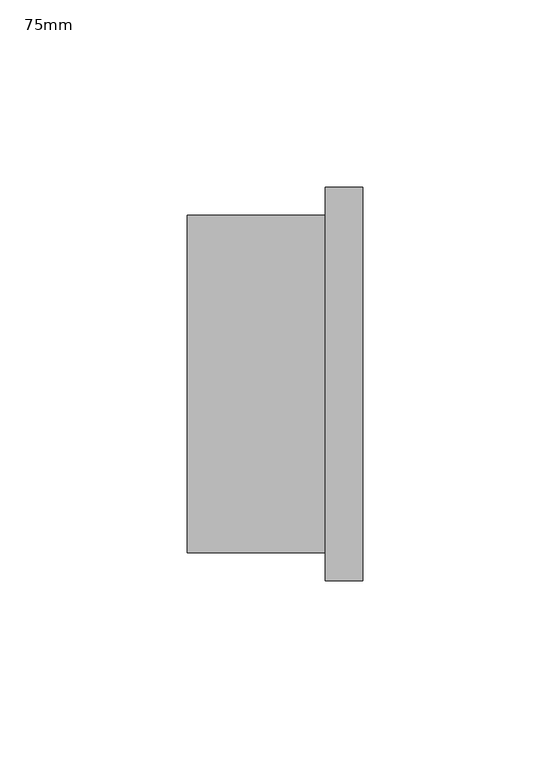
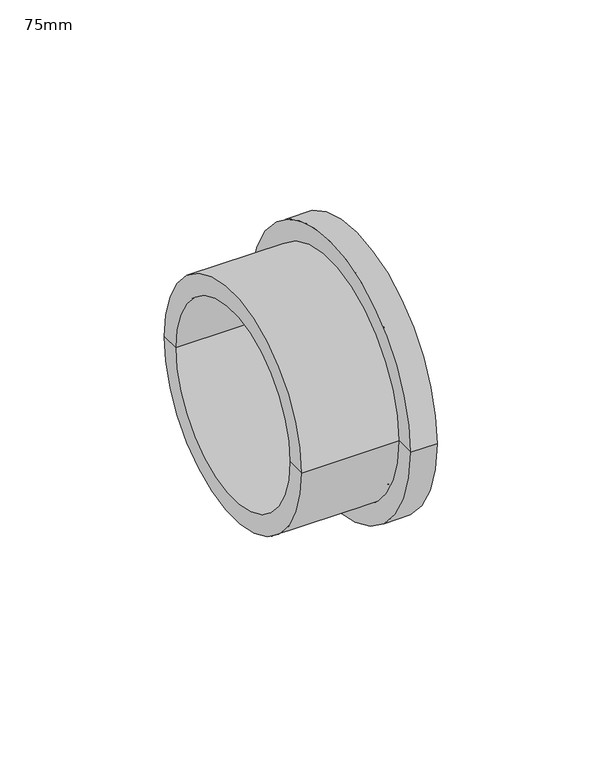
"""IFC4 building model written with IfcOpenShell, lengths in millimetres: pipe fitting geometry, Durapipe_PipeFitting_PVC_StubFlange : 75mm."""

from ifc_helpers import new_model, si_unit, frame, origin, place, context, project, spatial, polyline, circle_curve, source, transform, mapped, element, save
from ifc_brep_helpers import plane_surface, cylinder_surface, revolved_surface, advanced_brep


def pipe_fitting_75mm_f55d075b(model_context):
    return source(origin(), model_context, "Body", "AdvancedBrep", [
        advanced_brep(
        [(23.4, -52.5, 0.0), (23.4, 52.5, 0.0), (23.4, 43.7, 0.0), (23.4, -43.7, 0.0), (23.4, 31.5, 0.0), (23.4, -31.5, 0.0), (23.4, -39.9720779, 0.0), (23.4, 39.9720779, 0.0), (13.4, -52.5, 0.0), (13.4, 52.5, 0.0), (13.4, -45.0, 0.0), (13.4, 45.0, 0.0), (-23.4, -45.0, 0.0), (-23.4, 45.0, 0.0), (-23.4, -37.5, 0.0), (-23.4, 37.5, 0.0), (20.6, 31.5, 0.0), (20.6, -31.5, 0.0), (20.6, -37.5, 0.0), (20.6, 37.5, 0.0), (23.4, 41.2147186, 0.0), (21.9, 40.5933983, 0.0), (21.9, -40.5933983, 0.0), (23.4, -41.2147186, 0.0), (21.9, -41.836039, 0.0), (21.9, 41.836039, 0.0), (23.4, -42.4573593, 0.0), (23.4, 42.4573593, 0.0), (21.9, -43.0786797, 0.0), (21.9, 43.0786797, 0.0)],
        [
            (0, 1, circle_curve(frame((23.4, 0.0, 0.0), z_axis=(1.0, 0.0, 0.0), x_axis=(0.0, 1.0, 0.0)), 52.5)),
            (1, 2),
            (2, 3, circle_curve(frame((23.4, 0.0, 0.0), z_axis=(-1.0, 0.0, 0.0), x_axis=(0.0, -1.0, 0.0)), 43.7)),
            (3, 0),
            (4, 5, circle_curve(frame((23.4, 0.0, 0.0), z_axis=(-1.0, 0.0, 0.0), x_axis=(0.0, 1.0, 0.0)), 31.5)),
            (5, 6),
            (6, 7, circle_curve(frame((23.4, 0.0, 0.0), z_axis=(1.0, 0.0, 0.0), x_axis=(0.0, -1.0, 0.0)), 39.9720779)),
            (7, 4),
            (1, 0, circle_curve(frame((23.4, 0.0, 0.0), z_axis=(1.0, 0.0, 0.0), x_axis=(0.0, 1.0, 0.0)), 52.5)),
            (3, 2, circle_curve(frame((23.4, 0.0, 0.0), z_axis=(-1.0, 0.0, 0.0), x_axis=(0.0, 1.0, 0.0)), 43.7)),
            (5, 4, circle_curve(frame((23.4, 0.0, 0.0), z_axis=(-1.0, 0.0, 0.0), x_axis=(0.0, 1.0, 0.0)), 31.5)),
            (7, 6, circle_curve(frame((23.4, 0.0, 0.0), z_axis=(1.0, 0.0, 0.0), x_axis=(0.0, 1.0, 0.0)), 39.9720779)),
            (0, 8),
            (8, 9, circle_curve(frame((13.4, 0.0, 0.0), z_axis=(1.0, 0.0, 0.0), x_axis=(0.0, 1.0, 0.0)), 52.5)),
            (9, 1),
            (9, 8, circle_curve(frame((13.4, 0.0, 0.0), z_axis=(1.0, 0.0, 0.0), x_axis=(0.0, 1.0, 0.0)), 52.5)),
            (8, 10),
            (10, 11, circle_curve(frame((13.4, 0.0, 0.0), z_axis=(1.0, 0.0, 0.0), x_axis=(0.0, 1.0, 0.0)), 45.0)),
            (11, 9),
            (11, 10, circle_curve(frame((13.4, 0.0, 0.0), z_axis=(1.0, 0.0, 0.0), x_axis=(0.0, 1.0, 0.0)), 45.0)),
            (10, 12),
            (12, 13, circle_curve(frame((-23.4, 0.0, 0.0), z_axis=(1.0, 0.0, 0.0), x_axis=(0.0, 1.0, 0.0)), 45.0)),
            (13, 11),
            (13, 12, circle_curve(frame((-23.4, 0.0, 0.0), z_axis=(1.0, 0.0, 0.0), x_axis=(0.0, 1.0, 0.0)), 45.0)),
            (12, 14),
            (14, 15, circle_curve(frame((-23.4, 0.0, 0.0), z_axis=(1.0, 0.0, 0.0), x_axis=(0.0, 1.0, 0.0)), 37.5)),
            (15, 13),
            (15, 14, circle_curve(frame((-23.4, 0.0, 0.0), z_axis=(1.0, 0.0, 0.0), x_axis=(0.0, 1.0, 0.0)), 37.5)),
            (4, 16),
            (16, 17, circle_curve(frame((20.6, 0.0, 0.0), z_axis=(-1.0, 0.0, 0.0), x_axis=(0.0, 1.0, 0.0)), 31.5)),
            (17, 5),
            (17, 16, circle_curve(frame((20.6, 0.0, 0.0), z_axis=(-1.0, 0.0, 0.0), x_axis=(0.0, 1.0, 0.0)), 31.5)),
            (14, 18),
            (18, 19, circle_curve(frame((20.6, 0.0, 0.0), z_axis=(1.0, 0.0, 0.0), x_axis=(0.0, 1.0, 0.0)), 37.5)),
            (19, 15),
            (19, 18, circle_curve(frame((20.6, 0.0, 0.0), z_axis=(1.0, 0.0, 0.0), x_axis=(0.0, 1.0, 0.0)), 37.5)),
            (18, 17),
            (16, 19),
            (20, 21),
            (21, 22, circle_curve(frame((21.9, 0.0, 0.0), z_axis=(-1.0, 0.0, 0.0), x_axis=(0.0, -1.0, 0.0)), 40.5933983)),
            (22, 23),
            (23, 20, circle_curve(frame((23.4, 0.0, 0.0), z_axis=(1.0, 0.0, 0.0), x_axis=(0.0, -1.0, 0.0)), 41.2147186)),
            (23, 24),
            (24, 25, circle_curve(frame((21.9, 0.0, 0.0), z_axis=(1.0, 0.0, 0.0), x_axis=(0.0, -1.0, 0.0)), 41.836039)),
            (25, 20),
            (24, 26),
            (26, 27, circle_curve(frame((23.4, 0.0, 0.0), z_axis=(1.0, 0.0, 0.0), x_axis=(0.0, -1.0, 0.0)), 42.4573593)),
            (27, 25),
            (26, 28),
            (28, 29, circle_curve(frame((21.9, 0.0, 0.0), z_axis=(1.0, 0.0, 0.0), x_axis=(0.0, -1.0, 0.0)), 43.0786797)),
            (29, 27),
            (28, 3),
            (2, 29),
            (21, 7),
            (6, 22),
            (20, 23, circle_curve(frame((23.4, 0.0, 0.0), z_axis=(1.0, 0.0, 0.0), x_axis=(0.0, 1.0, 0.0)), 41.2147186)),
            (22, 21, circle_curve(frame((21.9, 0.0, 0.0), z_axis=(-1.0, 0.0, 0.0), x_axis=(0.0, 1.0, 0.0)), 40.5933983)),
            (25, 24, circle_curve(frame((21.9, 0.0, 0.0), z_axis=(1.0, 0.0, 0.0), x_axis=(0.0, 1.0, 0.0)), 41.836039)),
            (27, 26, circle_curve(frame((23.4, 0.0, 0.0), z_axis=(1.0, 0.0, 0.0), x_axis=(0.0, 1.0, 0.0)), 42.4573593)),
            (29, 28, circle_curve(frame((21.9, 0.0, 0.0), z_axis=(1.0, 0.0, 0.0), x_axis=(0.0, 1.0, 0.0)), 43.0786797)),
        ],
        [
            plane_surface(frame((23.4, 0.0, 0.0), z_axis=(1.0, 0.0, 0.0), x_axis=(0.0, 1.0, 0.0))),
            cylinder_surface(frame((26.5035546, 0.0, 0.0), z_axis=(-1.0, 0.0, 0.0), x_axis=(0.0, 1.0, 0.0)), 52.5),
            plane_surface(frame((13.4, 0.0, 0.0), z_axis=(-1.0, 0.0, 0.0), x_axis=(0.0, 1.0, 0.0))),
            cylinder_surface(frame((26.5035546, 0.0, 0.0), z_axis=(-1.0, 0.0, 0.0), x_axis=(0.0, 1.0, 0.0)), 45.0),
            plane_surface(frame((-23.4, 0.0, 0.0), z_axis=(-1.0, 0.0, 0.0), x_axis=(0.0, 1.0, 0.0))),
            revolved_surface(polyline([(20.6, 31.5, 0.0), (23.4, 31.5, 0.0)]), (26.5035546, 0.0, 0.0), (-1.0, 0.0, 0.0)),
            revolved_surface(polyline([(-23.4, 37.5, 0.0), (20.599999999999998, 37.5, 0.0)]), (-25.2250714, 0.0, 0.0), (-1.0, 0.0, 0.0)),
            plane_surface(frame((20.6, 0.0, 0.0), z_axis=(-1.0, 0.0, 0.0), x_axis=(0.0, 1.0, 0.0))),
            revolved_surface(polyline([(23.4, -41.2147186, 0.0), (21.9, -40.5933983, 0.0)]), (23.4, 0.0, 0.0), (1.0, 0.0, 0.0)),
            revolved_surface(polyline([(21.9, -41.836039, 0.0), (23.4, -41.2147186, 0.0)]), (23.4, 0.0, 0.0), (1.0, 0.0, 0.0)),
            revolved_surface(polyline([(23.4, -42.4573593, 0.0), (21.9, -41.836039, 0.0)]), (23.4, 0.0, 0.0), (1.0, 0.0, 0.0)),
            revolved_surface(polyline([(21.9, -43.0786797, 0.0), (23.4, -42.4573593, 0.0)]), (23.4, 0.0, 0.0), (1.0, 0.0, 0.0)),
            revolved_surface(polyline([(23.4, -43.7, 0.0), (21.9, -43.0786797, 0.0)]), (23.4, 0.0, 0.0), (1.0, 0.0, 0.0)),
            revolved_surface(polyline([(21.9, -40.5933983, 0.0), (23.4, -39.9720779, 0.0)]), (23.4, 0.0, 0.0), (1.0, 0.0, 0.0)),
            revolved_surface(polyline([(23.4, 41.2147186, 0.0), (21.9, 40.5933983, 0.0)]), (23.4, 0.0, 0.0), (1.0, 0.0, 0.0)),
            revolved_surface(polyline([(21.9, 41.836039, 0.0), (23.4, 41.2147186, 0.0)]), (23.4, 0.0, 0.0), (1.0, 0.0, 0.0)),
            revolved_surface(polyline([(23.4, 42.4573593, 0.0), (21.9, 41.836039, 0.0)]), (23.4, 0.0, 0.0), (1.0, 0.0, 0.0)),
            revolved_surface(polyline([(21.9, 43.0786797, 0.0), (23.4, 42.4573593, 0.0)]), (23.4, 0.0, 0.0), (1.0, 0.0, 0.0)),
            revolved_surface(polyline([(23.4, 43.7, 0.0), (21.9, 43.0786797, 0.0)]), (23.4, 0.0, 0.0), (1.0, 0.0, 0.0)),
            revolved_surface(polyline([(21.9, 40.5933983, 0.0), (23.4, 39.9720779, 0.0)]), (23.4, 0.0, 0.0), (1.0, 0.0, 0.0)),
        ],
        [
            (0, [[1, 2, 3, 4]]),
            (0, [[5, 6, 7, 8]]),
            (0, [[9, -4, 10, -2]]),
            (0, [[11, -8, 12, -6]]),
            (1, [[-1, 13, 14, 15]]),
            (1, [[-9, -15, 16, -13]]),
            (2, [[-14, 17, 18, 19]]),
            (2, [[-16, -19, 20, -17]]),
            (3, [[-18, 21, 22, 23]]),
            (3, [[-20, -23, 24, -21]]),
            (4, [[-22, 25, 26, 27]]),
            (4, [[-24, -27, 28, -25]]),
            (5, [[-5, 29, 30, 31]]),
            (5, [[-11, -31, 32, -29]]),
            (6, [[33, 34, 35, -26]]),
            (6, [[-33, -28, -35, 36]]),
            (7, [[-34, 37, -30, 38]]),
            (7, [[-36, -38, -32, -37]]),
            (8, [[39, 40, 41, 42]]),
            (9, [[-42, 43, 44, 45]]),
            (10, [[-44, 46, 47, 48]]),
            (11, [[-47, 49, 50, 51]]),
            (12, [[-50, 52, -3, 53]]),
            (13, [[-40, 54, -7, 55]]),
            (14, [[-39, 56, -41, 57]]),
            (15, [[-45, 58, -43, -56]]),
            (16, [[-48, 59, -46, -58]]),
            (17, [[-51, 60, -49, -59]]),
            (18, [[-53, -10, -52, -60]]),
            (19, [[-54, -57, -55, -12]]),
        ],
    ),
    ])


if __name__ == "__main__":
    model = new_model("IFC4")
    model_context = context("Model", 3, world=origin())
    ifc_project = project(units=[si_unit("LENGTHUNIT", "METRE", prefix="MILLI")], contexts=[model_context])
    site = spatial("IfcSite", under=ifc_project)
    building = spatial("IfcBuilding", under=site)
    placement = place(None, origin())
    pipe_fitting_75mm_shape = pipe_fitting_75mm_f55d075b(model_context)
    element("IfcPipeFitting", 1, ObjectType="Durapipe_PipeFitting_PVC_StubFlange : 75mm", at=placement, inside=building, context=model_context, shape_type="MappedRepresentation", body=[
        mapped(pipe_fitting_75mm_shape, transform((0.0, 0.0, 0.0), x_axis=(1.0, 0.0, 0.0), y_axis=(0.0, 1.0, 0.0), z_axis=(0.0, 0.0, 1.0))),
    ])
    save(model, "model.ifc")
